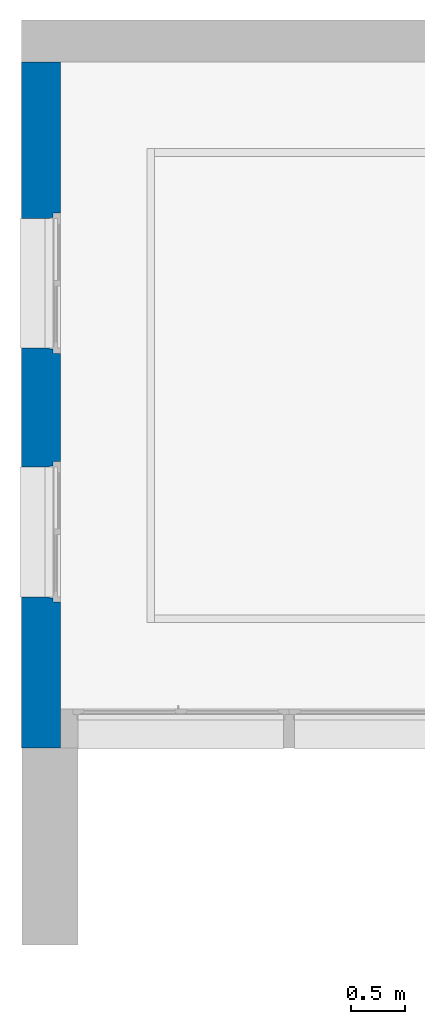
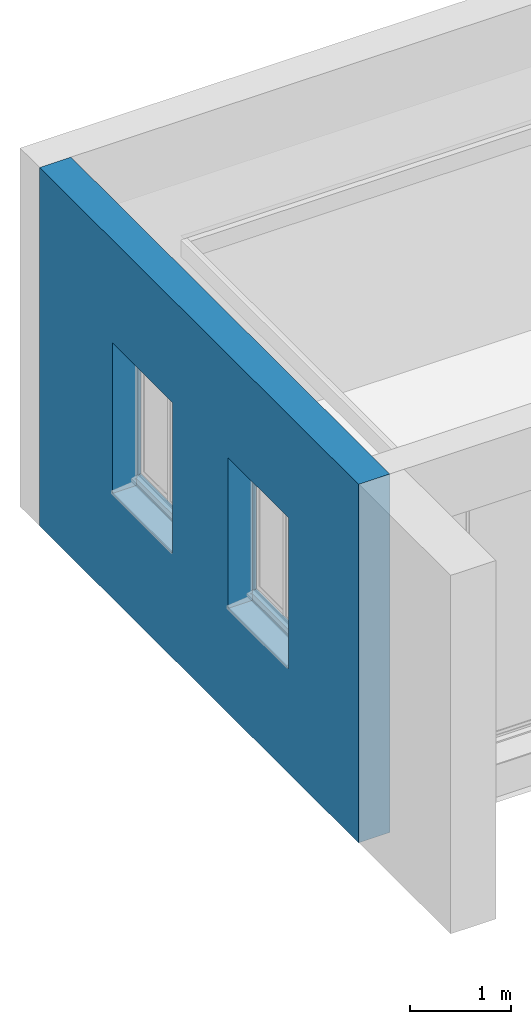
# One storey, part 23 of 32: 1 wall.
"""IFC2X3 building model written with IfcOpenShell, lengths in metres."""

from ifc_helpers import new_model, entity, si_unit, converted_unit, derived_unit, direction, frame, origin, place, context, subcontext, project, spatial, faceted_brep, material, layer, layer_set, type_object, element, save


model = new_model("IFC2X3")

# Units and contexts
model_context = context("Model", 3, precision=1e-05, world=origin(), true_north=direction((6.12303176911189e-17, 1.0)))
plan_context = context("Plan", 3, precision=1e-05, world=origin(), true_north=direction((6.12303176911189e-17, 1.0)))
body_context = subcontext(model_context, "Body", "Model", "MODEL_VIEW")
ifc_project = project(units=[si_unit("LENGTHUNIT", "METRE"), si_unit("AREAUNIT", "SQUARE_METRE"), si_unit("VOLUMEUNIT", "CUBIC_METRE"), converted_unit("PLANEANGLEUNIT", "DEGREE", entity("IfcRatioMeasure", 0.0174532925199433), si_unit("PLANEANGLEUNIT", "RADIAN"), dimensions=[0, 0, 0, 0, 0, 0, 0]), si_unit("MASSUNIT", "GRAM", prefix="KILO"), derived_unit("MASSDENSITYUNIT", [(si_unit("MASSUNIT", "GRAM", prefix="KILO"), 1), (si_unit("LENGTHUNIT", "METRE"), -3)]), derived_unit("MOMENTOFINERTIAUNIT", [(si_unit("LENGTHUNIT", "METRE"), 4)]), si_unit("TIMEUNIT", "SECOND"), si_unit("FREQUENCYUNIT", "HERTZ"), si_unit("THERMODYNAMICTEMPERATUREUNIT", "DEGREE_CELSIUS"), derived_unit("THERMALTRANSMITTANCEUNIT", [(si_unit("MASSUNIT", "GRAM", prefix="KILO"), 1), (si_unit("THERMODYNAMICTEMPERATUREUNIT", "KELVIN"), -1), (si_unit("TIMEUNIT", "SECOND"), -3)]), derived_unit("VOLUMETRICFLOWRATEUNIT", [(si_unit("LENGTHUNIT", "METRE"), 3), (si_unit("TIMEUNIT", "SECOND"), -1)]), si_unit("ELECTRICCURRENTUNIT", "AMPERE"), si_unit("ELECTRICVOLTAGEUNIT", "VOLT"), si_unit("POWERUNIT", "WATT"), si_unit("FORCEUNIT", "NEWTON", prefix="KILO"), si_unit("ILLUMINANCEUNIT", "LUX"), si_unit("LUMINOUSFLUXUNIT", "LUMEN"), si_unit("LUMINOUSINTENSITYUNIT", "CANDELA"), derived_unit("USERDEFINED", [(si_unit("MASSUNIT", "GRAM", prefix="KILO"), -1), (si_unit("LENGTHUNIT", "METRE"), -2), (si_unit("TIMEUNIT", "SECOND"), 3), (si_unit("LUMINOUSFLUXUNIT", "LUMEN"), 1)]), derived_unit("LINEARVELOCITYUNIT", [(si_unit("LENGTHUNIT", "METRE"), 1), (si_unit("TIMEUNIT", "SECOND"), -1)]), si_unit("PRESSUREUNIT", "PASCAL"), derived_unit("USERDEFINED", [(si_unit("LENGTHUNIT", "METRE"), -2), (si_unit("MASSUNIT", "GRAM", prefix="KILO"), 1), (si_unit("TIMEUNIT", "SECOND"), -2)]), derived_unit("LINEARFORCEUNIT", [(si_unit("MASSUNIT", "GRAM", prefix="KILO"), 1), (si_unit("LENGTHUNIT", "METRE"), 1), (si_unit("TIMEUNIT", "SECOND"), -2), (si_unit("LENGTHUNIT", "METRE"), -1)]), derived_unit("PLANARFORCEUNIT", [(si_unit("MASSUNIT", "GRAM", prefix="KILO"), 1), (si_unit("LENGTHUNIT", "METRE"), 1), (si_unit("TIMEUNIT", "SECOND"), -2), (si_unit("LENGTHUNIT", "METRE"), -2)])], contexts=[model_context, plan_context])

# Site, building, storey
site_placement = place(None, origin())
site = spatial("IfcSite", under=ifc_project, at=site_placement, Name="Default", CompositionType="ELEMENT")
building_placement = place(site_placement, origin())
building = spatial("IfcBuilding", under=site, at=building_placement, CompositionType="ELEMENT")
storey_placement = place(building_placement, origin())
storey = spatial("IfcBuildingStorey", under=building, at=storey_placement, Name="0 Mairie RDC 0.00", CompositionType="ELEMENT", Elevation=-1.94916083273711e-14)

# Wall
ifc_material_1 = material(Name="Maçonnerie - Enduit")
ifc_layer_1 = layer(ifc_material_1, 0.02)
ifc_material_2 = material(Name="Béton, coulé sur place")
ifc_layer_2 = layer(ifc_material_2, 0.2)
ifc_material_3 = material(Name="Vide")
ifc_layer_3 = layer(ifc_material_3, 0.01)
ifc_material_4 = material(Name="Maçonnerie - Isolant")
ifc_layer_4 = layer(ifc_material_4, 0.12)
ifc_material_5 = material(Name="Plâtre")
ifc_layer_5 = layer(ifc_material_5, 0.01)
ifc_layer_set = layer_set([ifc_layer_1, ifc_layer_2, ifc_layer_3, ifc_layer_4, ifc_layer_5], Name="Mur de base:A Enduit 2 + Béton 20 + vide 1 +  Doublage 13")
wall_type = type_object("IfcWallType", Name="Murs : Mur de base : A Enduit 2 + Béton 20 + vide 1 +  Doublage 13", PredefinedType="STANDARD", material=ifc_layer_set)
wall_placement = place(storey_placement, frame((-30.0670149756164, -1.97276374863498, -0.400000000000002), z_axis=(0.0, 0.0, 1.0), x_axis=(0.0, -1.0, 0.0)))
element("IfcWall", 1, at=wall_placement, inside=storey, type_object=wall_type, Name="Murs : Mur de base : A Enduit 2 + Béton 20 + vide 1 +  Doublage 13", ObjectType="Mur de base:A Enduit 2 + Béton 20 + vide 1 +  Doublage 13", context=body_context, shape_type="Brep", body=[
    faceted_brep([(0.0, -0.180000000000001, 0.0), (6.34025738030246, -0.180000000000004, 0.0), (6.34025738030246, -0.180000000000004, 4.35000000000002), (0.0, -0.180000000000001, 4.35000000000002), (2.64417115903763, -0.180000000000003, 3.1), (2.64417115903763, -0.180000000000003, 1.27), (1.44417115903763, -0.180000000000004, 1.27), (1.44417115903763, -0.180000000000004, 3.1), (4.94300720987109, -0.180000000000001, 3.1), (4.94300720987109, -0.180000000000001, 1.27), (3.74300720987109, -0.180000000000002, 1.27), (3.74300720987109, -0.180000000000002, 3.1), (0.0, 0.18, 4.35000000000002), (5.98025738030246, 0.179999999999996, 4.35000000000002), (6.34025738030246, 0.179999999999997, 4.35000000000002), (6.34025738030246, 0.179999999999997, 0.0), (6.11025738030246, 0.179999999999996, 0.0), (6.11025738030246, 0.179999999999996, 0.380000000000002), (0.0, 0.18, 0.380000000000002), (1.39417115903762, 0.179999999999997, 1.35), (2.69417115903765, 0.179999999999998, 1.35), (2.69417115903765, 0.179999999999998, 3.15000000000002), (1.39417115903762, 0.179999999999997, 3.15000000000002), (3.69300720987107, 0.179999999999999, 1.35), (4.99300720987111, 0.18, 1.35), (4.99300720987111, 0.18, 3.15000000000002), (3.69300720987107, 0.179999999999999, 3.15000000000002), (0.0, 0.049999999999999, 0.0), (6.11025738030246, 0.0500000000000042, 0.0), (6.34025738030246, -0.176468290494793, 0.0), (6.34025738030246, -0.176468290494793, 4.35000000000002), (0.0, 0.049999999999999, 0.380000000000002), (2.64417115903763, 0.100000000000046, 1.35), (2.64417115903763, 0.100000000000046, 1.27), (2.64417115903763, 0.0800000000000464, 3.1), (2.64417115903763, 0.0800000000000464, 1.35), (1.44417115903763, 0.100000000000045, 1.27), (1.44417115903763, 0.100000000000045, 1.35), (1.44417115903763, 0.0800000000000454, 1.35), (1.44417115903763, 0.0800000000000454, 3.1), (2.65417115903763, 0.0800000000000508, 1.35), (2.65417115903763, 0.110000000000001, 1.35), (2.69417115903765, 0.110000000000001, 1.35), (1.39417115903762, 0.110000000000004, 1.35), (1.43417115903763, 0.110000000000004, 1.35), (1.43417115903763, 0.0800000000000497, 1.35), (2.69417115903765, 0.109999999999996, 3.15000000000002), (2.65417115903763, 0.110000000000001, 3.11), (1.43417115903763, 0.11, 3.11), (1.39417115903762, 0.11, 3.15000000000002), (2.65417115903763, 0.0800000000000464, 3.11), (1.43417115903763, 0.0800000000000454, 3.11), (4.94300720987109, 0.100000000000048, 1.35), (4.94300720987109, 0.100000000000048, 1.27), (4.94300720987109, 0.0800000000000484, 3.1), (4.94300720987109, 0.0800000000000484, 1.35), (3.74300720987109, 0.100000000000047, 1.27), (3.74300720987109, 0.100000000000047, 1.35), (3.74300720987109, 0.0800000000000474, 1.35), (3.74300720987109, 0.0800000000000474, 3.1), (4.95300720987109, 0.0800000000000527, 1.35), (4.95300720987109, 0.110000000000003, 1.35), (4.99300720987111, 0.110000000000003, 1.35), (3.69300720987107, 0.110000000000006, 1.35), (3.73300720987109, 0.110000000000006, 1.35), (3.73300720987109, 0.0800000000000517, 1.35), (4.99300720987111, 0.109999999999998, 3.15000000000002), (4.95300720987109, 0.110000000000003, 3.11), (3.73300720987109, 0.110000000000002, 3.11), (3.69300720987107, 0.110000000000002, 3.15000000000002), (4.95300720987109, 0.0800000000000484, 3.11), (3.73300720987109, 0.0800000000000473, 3.11), (6.11025738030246, 0.0500000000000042, 0.380000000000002)], [[[0, 1, 2, 3], [4, 5, 6, 7], [8, 9, 10, 11]], [[12, 13, 14, 15, 16, 17, 18], [19, 20, 21, 22], [23, 24, 25, 26]], [[1, 0, 27, 28, 16, 15, 29]], [[3, 2, 30, 14, 13, 12]], [[2, 1, 29, 15, 14, 30]], [[0, 3, 12, 18, 31, 27]], [[32, 33, 5, 4, 34, 35]], [[36, 37, 38, 39, 7, 6]], [[5, 33, 36, 6]], [[33, 32, 37, 36]], [[34, 4, 7, 39]], [[32, 35, 40, 41, 42, 20, 19, 43, 44, 45, 38, 37]], [[20, 42, 46, 21]], [[42, 41, 47, 48, 44, 43, 49, 46]], [[41, 40, 50, 47]], [[35, 34, 39, 38, 45, 51, 50, 40]], [[21, 46, 49, 22]], [[48, 47, 50, 51]], [[43, 19, 22, 49]], [[45, 44, 48, 51]], [[52, 53, 9, 8, 54, 55]], [[56, 57, 58, 59, 11, 10]], [[9, 53, 56, 10]], [[53, 52, 57, 56]], [[54, 8, 11, 59]], [[52, 55, 60, 61, 62, 24, 23, 63, 64, 65, 58, 57]], [[24, 62, 66, 25]], [[62, 61, 67, 68, 64, 63, 69, 66]], [[61, 60, 70, 67]], [[55, 54, 59, 58, 65, 71, 70, 60]], [[25, 66, 69, 26]], [[68, 67, 70, 71]], [[63, 23, 26, 69]], [[65, 64, 68, 71]], [[17, 72, 31, 18]], [[72, 17, 16, 28]], [[31, 72, 28, 27]]]),
])

save(model, "model.ifc")
